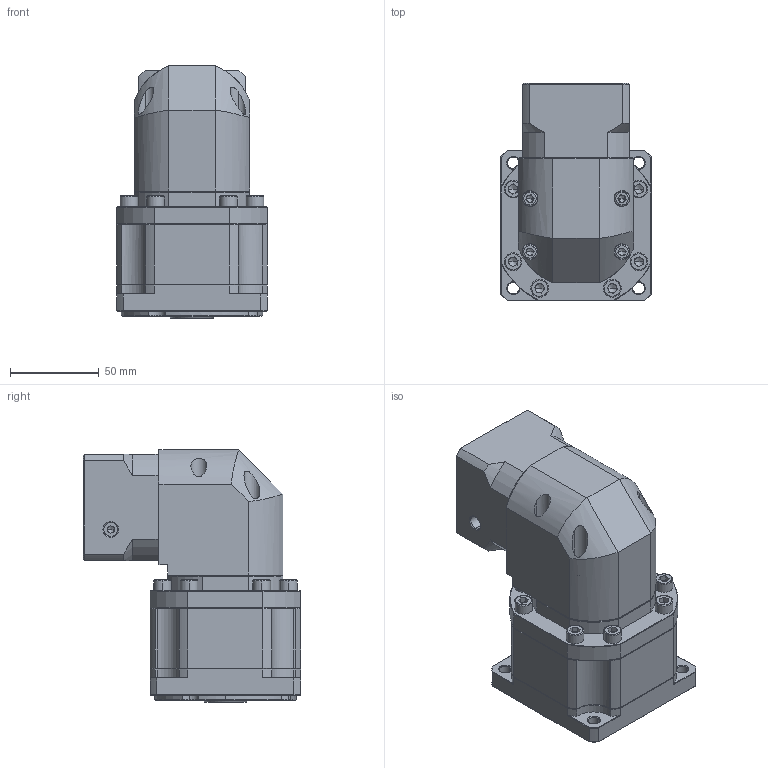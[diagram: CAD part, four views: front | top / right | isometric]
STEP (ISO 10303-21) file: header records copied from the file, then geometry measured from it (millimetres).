
FILE_DESCRIPTION (( 'STEP AP214' ), '1' );
FILE_NAME ('ZBR090-K15-L2-P2-14-50-70-M5.step', '2023-08-19T04:01:24', ( '' ), ( '' ), 'SwSTEP 2.0', 'SolidWorks 2016', '' );
FILE_SCHEMA (( 'AUTOMOTIVE_DESIGN' ));
Length unit declared in the file: millimetre
Products named in the file (1): ZBR090-K15-L2-P2-14-50-70-M5
Bounding box: 85 x 122.7 x 142.5 mm (x, y, z)
Volume: 781834.1 mm3; surface area: 98069.7 mm2
Topology: 5 solids, 5 shells, 2388 faces, 6333 edges, 4046 vertices
Faces by surface type: plane 1171, bspline 428, cylinder 418, cone 363, torus 8
Entity records: 123740 total; most frequent: CARTESIAN_POINT 41442, ORIENTED_EDGE 12578, DIRECTION 10122, EDGE_CURVE 6289, VERTEX_POINT 4046, VECTOR 3990, LINE 3990, AXIS2_PLACEMENT_3D 3066
